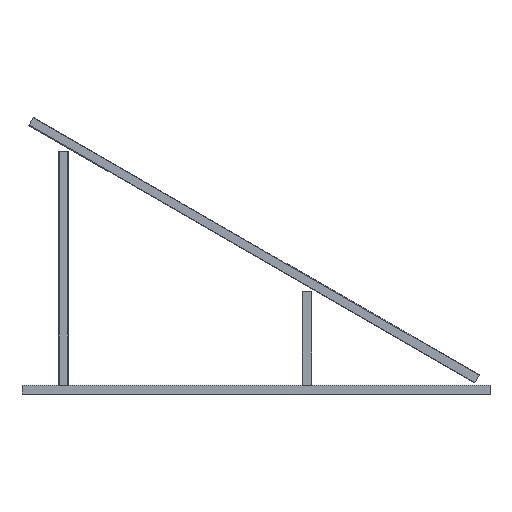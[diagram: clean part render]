
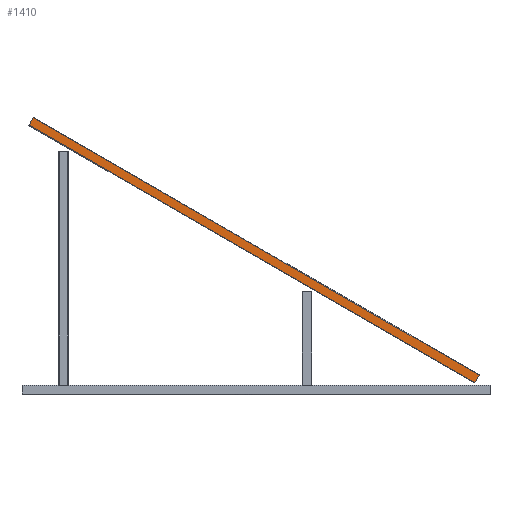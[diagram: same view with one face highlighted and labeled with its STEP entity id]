
A CAD part, top view. The second image highlights one B-rep face of the part: STEP entity #1410.
In plain terms, the highlighted planar face has unit normal (0, 0, 1).
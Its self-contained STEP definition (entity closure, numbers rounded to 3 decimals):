
#42 = LINE ( 'NONE', #1746, #594 ) ;
#52 = EDGE_CURVE ( 'NONE', #2426, #3934, #2385, .T. ) ;
#200 = VECTOR ( 'NONE', #4059, 1000. ) ;
#282 = CARTESIAN_POINT ( 'NONE',  ( 1191.92, 78.386, 20. ) ) ;
#440 = VECTOR ( 'NONE', #1019, 1000. ) ;
#528 = EDGE_LOOP ( 'NONE', ( #2972, #2244, #2100, #3927 ) ) ;
#594 = VECTOR ( 'NONE', #3441, 1000. ) ;
#807 = CARTESIAN_POINT ( 'NONE',  ( 1169.42, 39.414, 20. ) ) ;
#1006 = CARTESIAN_POINT ( 'NONE',  ( 1191.92, 78.386, 20. ) ) ;
#1009 = DIRECTION ( 'NONE',  ( 0., 0., -1. ) ) ;
#1019 = DIRECTION ( 'NONE',  ( -0.5, -0.866, 0. ) ) ;
#1089 = VERTEX_POINT ( 'NONE', #2537 ) ;
#1188 = VECTOR ( 'NONE', #2077, 1000. ) ;
#1300 = LINE ( 'NONE', #3376, #200 ) ;
#1360 = EDGE_CURVE ( 'NONE', #2426, #1089, #42, .T. ) ;
#1392 = LINE ( 'NONE', #3397, #440 ) ;
#1410 = ADVANCED_FACE ( 'NONE', ( #3389 ), #2080, .F. ) ;
#1504 = VERTEX_POINT ( 'NONE', #2555 ) ;
#1746 = CARTESIAN_POINT ( 'NONE',  ( 1191.92, 78.386, 20. ) ) ;
#2077 = DIRECTION ( 'NONE',  ( -0.5, -0.866, 0. ) ) ;
#2080 = PLANE ( 'NONE',  #3999 ) ;
#2100 = ORIENTED_EDGE ( 'NONE', *, *, #52, .F. ) ;
#2244 = ORIENTED_EDGE ( 'NONE', *, *, #4417, .F. ) ;
#2385 = LINE ( 'NONE', #1006, #1188 ) ;
#2426 = VERTEX_POINT ( 'NONE', #4055 ) ;
#2436 = DIRECTION ( 'NONE',  ( 0., 1., 0. ) ) ;
#2537 = CARTESIAN_POINT ( 'NONE',  ( -1189.65, 1453.386, 20. ) ) ;
#2555 = CARTESIAN_POINT ( 'NONE',  ( -1212.15, 1414.414, 20. ) ) ;
#2972 = ORIENTED_EDGE ( 'NONE', *, *, #3351, .T. ) ;
#3351 = EDGE_CURVE ( 'NONE', #1089, #1504, #1392, .T. ) ;
#3376 = CARTESIAN_POINT ( 'NONE',  ( 1169.42, 39.414, 20. ) ) ;
#3389 = FACE_OUTER_BOUND ( 'NONE', #528, .T. ) ;
#3397 = CARTESIAN_POINT ( 'NONE',  ( -1189.65, 1453.386, 20. ) ) ;
#3441 = DIRECTION ( 'NONE',  ( -0.866, 0.5, 0. ) ) ;
#3927 = ORIENTED_EDGE ( 'NONE', *, *, #1360, .T. ) ;
#3934 = VERTEX_POINT ( 'NONE', #807 ) ;
#3999 = AXIS2_PLACEMENT_3D ( 'NONE', #282, #1009, #2436 ) ;
#4055 = CARTESIAN_POINT ( 'NONE',  ( 1191.92, 78.386, 20. ) ) ;
#4059 = DIRECTION ( 'NONE',  ( -0.866, 0.5, 0. ) ) ;
#4417 = EDGE_CURVE ( 'NONE', #3934, #1504, #1300, .T. ) ;
